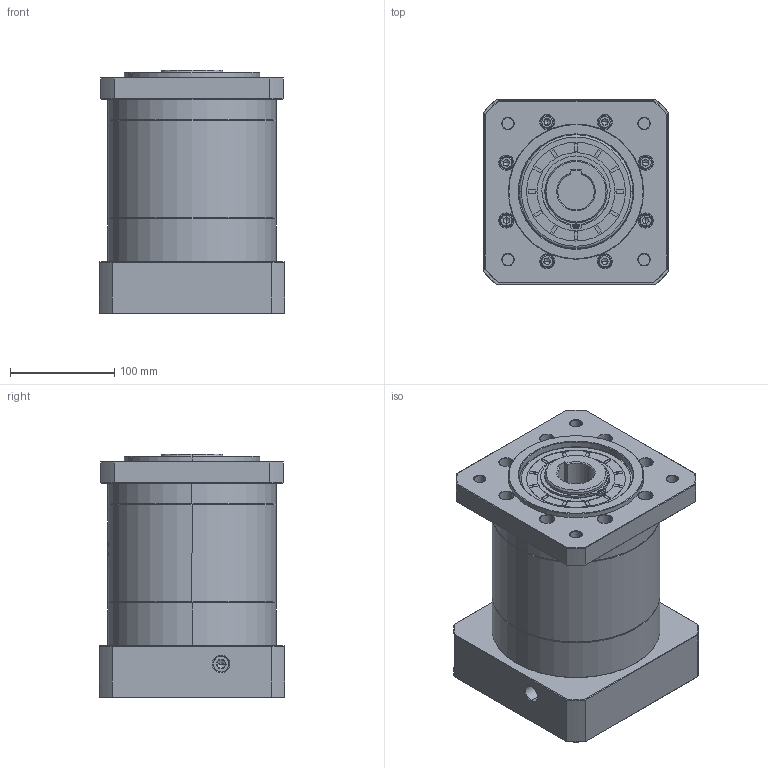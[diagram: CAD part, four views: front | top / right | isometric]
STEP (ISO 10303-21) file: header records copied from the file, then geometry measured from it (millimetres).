
FILE_DESCRIPTION (( 'STEP AP214' ), '1' );
FILE_NAME ('ZF160-K35-L2-35-114.3-200-M12.step', '2023-03-21T04:32:51', ( '' ), ( '' ), 'SwSTEP 2.0', 'SolidWorks 2016', '' );
FILE_SCHEMA (( 'AUTOMOTIVE_DESIGN' ));
Length unit declared in the file: millimetre
Products named in the file (1): ZF160-K35-L2-35-114.3-200-M12
Bounding box: 178 x 178 x 234.2 mm (x, y, z)
Volume: 4713684.1 mm3; surface area: 389660.3 mm2
Topology: 6 solids, 6 shells, 1731 faces, 4470 edges, 2850 vertices
Faces by surface type: plane 727, cylinder 414, cone 359, bspline 211, torus 20
Entity records: 93416 total; most frequent: CARTESIAN_POINT 34021, ORIENTED_EDGE 8884, DIRECTION 7780, EDGE_CURVE 4442, VERTEX_POINT 2850, AXIS2_PLACEMENT_3D 2689, VECTOR 2402, LINE 2402
